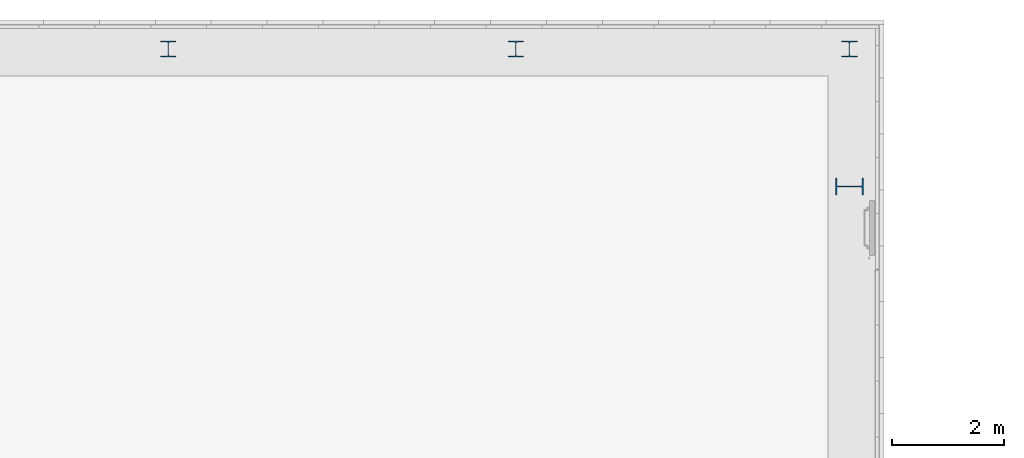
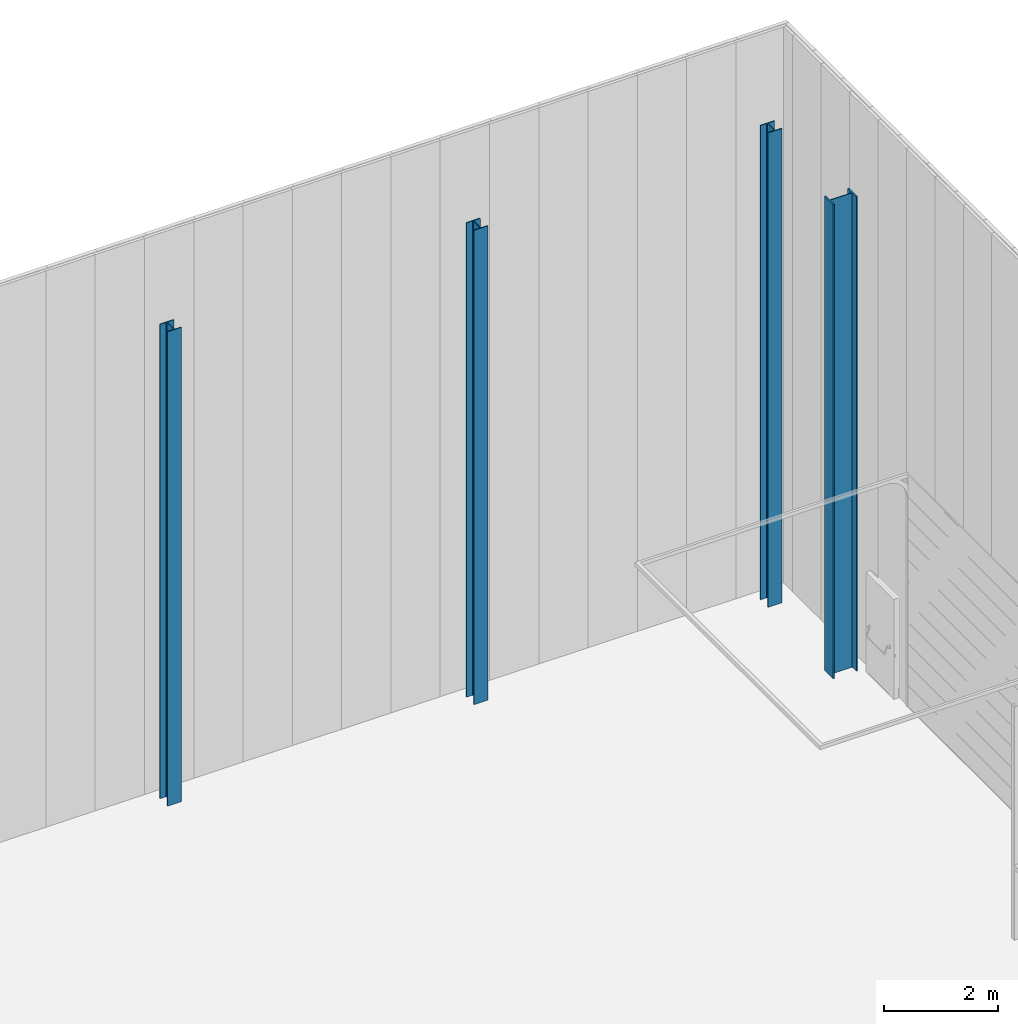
# One storey, part 44 of 302: 4 columns.
"""IFC2X3 building model written with IfcOpenShell, lengths in metres."""

from ifc_helpers import new_model, entity, si_unit, converted_unit, derived_unit, direction, frame, frame_2d, origin, place, context, subcontext, project, spatial, i_section, extrude, source, transform, mapped, material, type_object, type_shapes, element, save


model = new_model("IFC2X3")

# Units and contexts
model_context = context("Model", 3, precision=1e-05, world=origin(), true_north=direction((6.12303176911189e-17, 1.0)))
body_context = subcontext(model_context, "Body", "Model", "MODEL_VIEW")
ifc_project = project(units=[si_unit("LENGTHUNIT", "METRE"), si_unit("AREAUNIT", "SQUARE_METRE"), si_unit("VOLUMEUNIT", "CUBIC_METRE"), converted_unit("PLANEANGLEUNIT", "DEGREE", entity("IfcRatioMeasure", 0.0174532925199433), si_unit("PLANEANGLEUNIT", "RADIAN"), dimensions=[0, 0, 0, 0, 0, 0, 0]), si_unit("MASSUNIT", "GRAM", prefix="KILO"), derived_unit("MASSDENSITYUNIT", [(si_unit("MASSUNIT", "GRAM", prefix="KILO"), 1), (si_unit("LENGTHUNIT", "METRE"), -3)]), derived_unit("MOMENTOFINERTIAUNIT", [(si_unit("LENGTHUNIT", "METRE"), 4)]), si_unit("TIMEUNIT", "SECOND"), si_unit("FREQUENCYUNIT", "HERTZ"), si_unit("THERMODYNAMICTEMPERATUREUNIT", "DEGREE_CELSIUS"), derived_unit("THERMALTRANSMITTANCEUNIT", [(si_unit("MASSUNIT", "GRAM", prefix="KILO"), 1), (si_unit("THERMODYNAMICTEMPERATUREUNIT", "KELVIN"), -1), (si_unit("TIMEUNIT", "SECOND"), -3)]), derived_unit("VOLUMETRICFLOWRATEUNIT", [(si_unit("LENGTHUNIT", "METRE"), 3), (si_unit("TIMEUNIT", "SECOND"), -1)]), si_unit("ELECTRICCURRENTUNIT", "AMPERE"), si_unit("ELECTRICVOLTAGEUNIT", "VOLT"), si_unit("POWERUNIT", "WATT"), si_unit("FORCEUNIT", "NEWTON", prefix="KILO"), si_unit("ILLUMINANCEUNIT", "LUX"), si_unit("LUMINOUSFLUXUNIT", "LUMEN"), si_unit("LUMINOUSINTENSITYUNIT", "CANDELA"), derived_unit("USERDEFINED", [(si_unit("MASSUNIT", "GRAM", prefix="KILO"), -1), (si_unit("LENGTHUNIT", "METRE"), -2), (si_unit("TIMEUNIT", "SECOND"), 3), (si_unit("LUMINOUSFLUXUNIT", "LUMEN"), 1)]), derived_unit("LINEARVELOCITYUNIT", [(si_unit("LENGTHUNIT", "METRE"), 1), (si_unit("TIMEUNIT", "SECOND"), -1)]), si_unit("PRESSUREUNIT", "PASCAL"), derived_unit("USERDEFINED", [(si_unit("LENGTHUNIT", "METRE"), -2), (si_unit("MASSUNIT", "GRAM", prefix="KILO"), 1), (si_unit("TIMEUNIT", "SECOND"), -2)]), derived_unit("LINEARFORCEUNIT", [(si_unit("MASSUNIT", "GRAM", prefix="KILO"), 1), (si_unit("LENGTHUNIT", "METRE"), 1), (si_unit("TIMEUNIT", "SECOND"), -2), (si_unit("LENGTHUNIT", "METRE"), -1)]), derived_unit("PLANARFORCEUNIT", [(si_unit("MASSUNIT", "GRAM", prefix="KILO"), 1), (si_unit("LENGTHUNIT", "METRE"), 1), (si_unit("TIMEUNIT", "SECOND"), -2), (si_unit("LENGTHUNIT", "METRE"), -2)])], contexts=[model_context])

# Site, building, storey
site_placement = place(None, origin())
site = spatial("IfcSite", under=ifc_project, at=site_placement, Name="Default", CompositionType="ELEMENT")
building_placement = place(site_placement, origin())
building = spatial("IfcBuilding", under=site, at=building_placement, CompositionType="ELEMENT")
storey_placement = place(building_placement, frame((0.0, 0.0, -1.3)))
storey = spatial("IfcBuildingStorey", under=building, at=storey_placement, Name="00_EG", CompositionType="ELEMENT", Elevation=-1.3)

# Columns
ifc_material = material(Name="Metall - Baustahl S235")
column_type_1 = type_object("IfcColumnType", Name="HEB Stütze:HEB 500", PredefinedType="COLUMN", material=ifc_material)
shared_shape_1 = source(origin(), body_context, "Body", "SweptSolid", [
    extrude(i_section(OverallWidth=0.3, OverallDepth=0.5, WebThickness=0.0145, FlangeThickness=0.028, FilletRadius=0.027, at=frame_2d((0.0, -2.77555756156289e-17), x_axis=(0.0, 1.0))), frame((0.0, 0.0, -0.0300000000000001), z_axis=(0.0, 0.0, 1.0), x_axis=(0.0, -1.0, 0.0)), (0.0, 0.0, 1.0), 10.175),
])
type_shapes(column_type_1, [shared_shape_1])
column_placement = place(storey_placement, frame((-177.890111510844, 73.228088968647, 1.3), z_axis=(0.0, 0.0, 1.0), x_axis=(0.0, -1.0, 0.0)))
element("IfcColumn", 1, at=column_placement, inside=storey, type_object=column_type_1, material=ifc_material, Name="HEB Stütze:HEB 500", ObjectType="HEB Stütze:HEB 500", context=body_context, shape_type="MappedRepresentation", body=[
    mapped(shared_shape_1, transform((0.0, 0.0, 0.0), scale=1.0)),
])
column_type_2 = type_object("IfcColumnType", Name="HEB Stütze:HEB 280", PredefinedType="COLUMN", material=ifc_material)
shared_shape_2 = source(origin(), body_context, "Body", "SweptSolid", [
    extrude(i_section(OverallWidth=0.28, OverallDepth=0.28, WebThickness=0.0105, FlangeThickness=0.018, FilletRadius=0.024, at=frame_2d((0.0, -2.77555756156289e-17), x_axis=(0.0, 1.0))), frame((0.0, 0.0, -0.0300000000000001), z_axis=(0.0, 0.0, 1.0), x_axis=(0.0, -1.0, 0.0)), (0.0, 0.0, 1.0), 10.175),
])
type_shapes(column_type_2, [shared_shape_2])
for number, where, z_axis, x_axis in (
    (2, (-177.890111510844, 75.688088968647, 1.3), (0.0, 0.0, 1.0), (-1.0, 0.0, 0.0)),
    (3, (-183.858129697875, 75.688088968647, 1.3), (0.0, 0.0, 1.0), (-1.0, 0.0, 0.0)),
    (4, (-190.075647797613, 75.688088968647, 1.3), (0.0, 0.0, 1.0), (-1.0, 0.0, 0.0)),
):
    element("IfcColumn", number, at=place(storey_placement, frame(where, z_axis=z_axis, x_axis=x_axis)), inside=storey, type_object=column_type_2, material=ifc_material, Name="HEB Stütze:HEB 280", ObjectType="HEB Stütze:HEB 280", context=body_context, shape_type="MappedRepresentation", body=[
        mapped(shared_shape_2, transform((0.0, 0.0, 0.0), scale=1.0)),
    ])

save(model, "model.ifc")
